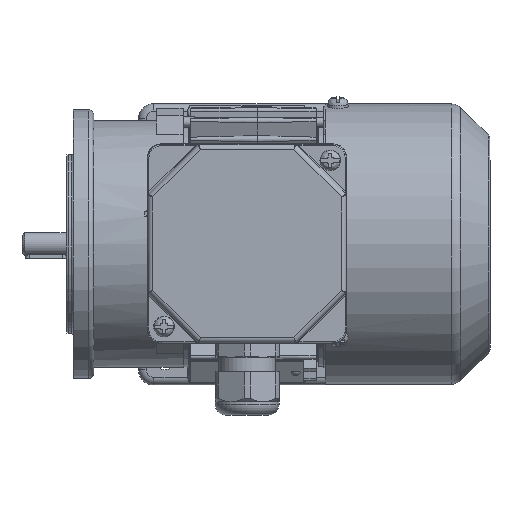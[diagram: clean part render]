
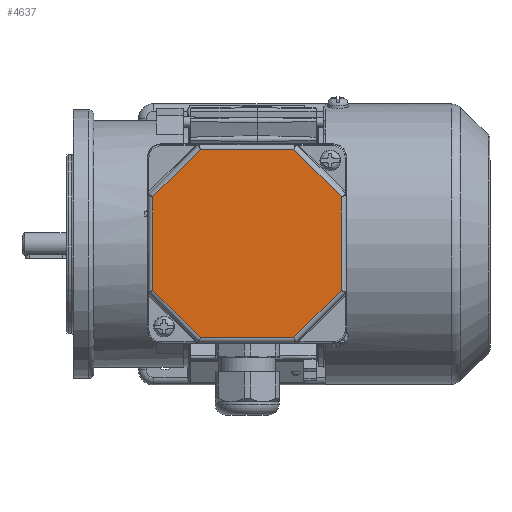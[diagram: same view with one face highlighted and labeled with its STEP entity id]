
A CAD part, top view. The second image highlights one B-rep face of the part: STEP entity #4637.
In plain terms, the highlighted planar face has unit normal (0, 0, 1).
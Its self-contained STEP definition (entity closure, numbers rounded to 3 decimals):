
#4637 = ADVANCED_FACE( '', ( #9695 ), #9696, .T. );
#9695 = FACE_OUTER_BOUND( '', #20449, .T. );
#9696 = PLANE( '', #20450 );
#20449 = EDGE_LOOP( '', ( #34228, #34229, #34230, #34231, #34232, #34233, #34234, #34235 ) );
#20450 = AXIS2_PLACEMENT_3D( '', #34236, #34237, #34238 );
#34228 = ORIENTED_EDGE( '', *, *, #40390, .T. );
#34229 = ORIENTED_EDGE( '', *, *, #39410, .T. );
#34230 = ORIENTED_EDGE( '', *, *, #42352, .T. );
#34231 = ORIENTED_EDGE( '', *, *, #42420, .T. );
#34232 = ORIENTED_EDGE( '', *, *, #41066, .T. );
#34233 = ORIENTED_EDGE( '', *, *, #44429, .T. );
#34234 = ORIENTED_EDGE( '', *, *, #44430, .T. );
#34235 = ORIENTED_EDGE( '', *, *, #44431, .T. );
#34236 = CARTESIAN_POINT( '', ( -39., 39., 12. ) );
#34237 = DIRECTION( '', ( 0., 0., 1. ) );
#34238 = DIRECTION( '', ( 1., 0., 0. ) );
#39410 = EDGE_CURVE( '', #45558, #45559, #45560, .T. );
#40390 = EDGE_CURVE( '', #47304, #45558, #47305, .F. );
#41066 = EDGE_CURVE( '', #48423, #48424, #48425, .F. );
#42352 = EDGE_CURVE( '', #45559, #50499, #50500, .F. );
#42420 = EDGE_CURVE( '', #50499, #48423, #50598, .T. );
#44429 = EDGE_CURVE( '', #48424, #53309, #53310, .T. );
#44430 = EDGE_CURVE( '', #53309, #52628, #53311, .F. );
#44431 = EDGE_CURVE( '', #52628, #47304, #53312, .T. );
#45558 = VERTEX_POINT( '', #54483 );
#45559 = VERTEX_POINT( '', #54484 );
#45560 = LINE( '', #54485, #54486 );
#47304 = VERTEX_POINT( '', #57897 );
#47305 = LINE( '', #57898, #57899 );
#48423 = VERTEX_POINT( '', #60185 );
#48424 = VERTEX_POINT( '', #60186 );
#48425 = LINE( '', #60187, #60188 );
#50499 = VERTEX_POINT( '', #64604 );
#50500 = LINE( '', #64605, #64606 );
#50598 = LINE( '', #64891, #64892 );
#52628 = VERTEX_POINT( '', #68825 );
#53309 = VERTEX_POINT( '', #70105 );
#53310 = LINE( '', #70106, #70107 );
#53311 = LINE( '', #70108, #70109 );
#53312 = LINE( '', #70110, #70111 );
#54483 = CARTESIAN_POINT( '', ( 36.825, 18.255, 12. ) );
#54484 = CARTESIAN_POINT( '', ( 18.255, 36.825, 12. ) );
#54485 = CARTESIAN_POINT( '', ( 17.679, 37.401, 12. ) );
#54486 = VECTOR( '', #72449, 1000. );
#57897 = CARTESIAN_POINT( '', ( 36.825, -18.255, 12. ) );
#57898 = CARTESIAN_POINT( '', ( 36.825, 19.069, 12. ) );
#57899 = VECTOR( '', #73832, 1000. );
#60185 = CARTESIAN_POINT( '', ( -36.825, 18.255, 12. ) );
#60186 = CARTESIAN_POINT( '', ( -36.825, -18.255, 12. ) );
#60187 = CARTESIAN_POINT( '', ( -36.825, -19.069, 12. ) );
#60188 = VECTOR( '', #74614, 1000. );
#64604 = CARTESIAN_POINT( '', ( -18.255, 36.825, 12. ) );
#64605 = CARTESIAN_POINT( '', ( -19.069, 36.825, 12. ) );
#64606 = VECTOR( '', #76357, 1000. );
#64891 = CARTESIAN_POINT( '', ( -37.401, 17.679, 12. ) );
#64892 = VECTOR( '', #76434, 1000. );
#68825 = CARTESIAN_POINT( '', ( 18.255, -36.825, 12. ) );
#70105 = CARTESIAN_POINT( '', ( -18.255, -36.825, 12. ) );
#70106 = CARTESIAN_POINT( '', ( -17.679, -37.401, 12. ) );
#70107 = VECTOR( '', #78728, 1000. );
#70108 = CARTESIAN_POINT( '', ( 19.069, -36.825, 12. ) );
#70109 = VECTOR( '', #78729, 1000. );
#70110 = CARTESIAN_POINT( '', ( 37.401, -17.679, 12. ) );
#70111 = VECTOR( '', #78730, 1000. );
#72449 = DIRECTION( '', ( -0.707, 0.707, 0. ) );
#73832 = DIRECTION( '', ( 0., -1., 0. ) );
#74614 = DIRECTION( '', ( 0., 1., 0. ) );
#76357 = DIRECTION( '', ( 1., 0., 0. ) );
#76434 = DIRECTION( '', ( -0.707, -0.707, 0. ) );
#78728 = DIRECTION( '', ( 0.707, -0.707, 0. ) );
#78729 = DIRECTION( '', ( -1., 0., 0. ) );
#78730 = DIRECTION( '', ( 0.707, 0.707, 0. ) );
